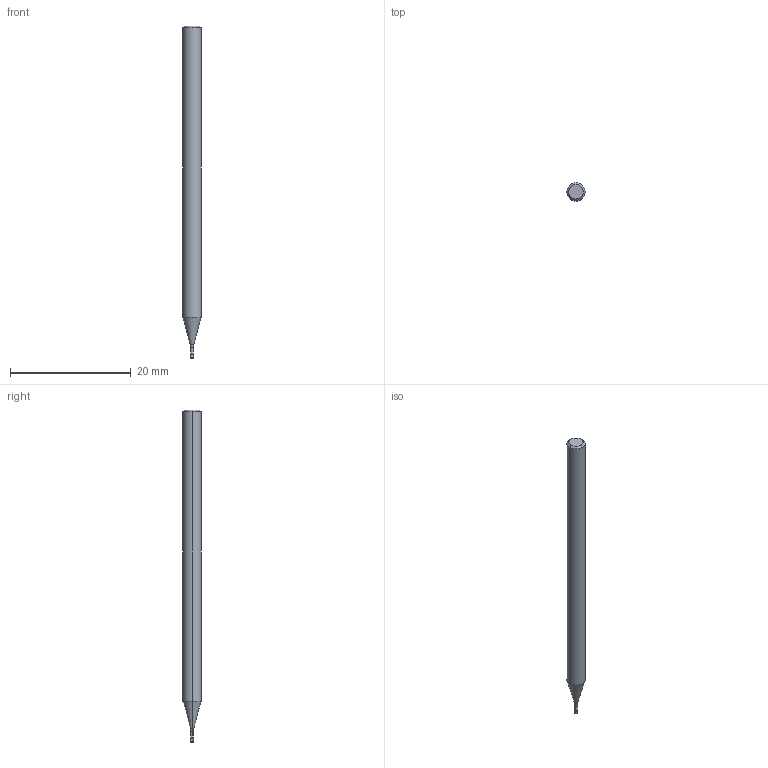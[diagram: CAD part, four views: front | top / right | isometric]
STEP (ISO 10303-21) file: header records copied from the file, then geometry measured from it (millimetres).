
FILE_DESCRIPTION (( 'STEP AP214' ), '1' );
FILE_NAME ('560.050.75_3D-model.step', '2022-02-18T15:43:11', ( '' ), ( '' ), 'SwSTEP 2.0', 'SolidWorks 2020', '' );
FILE_SCHEMA (( 'AUTOMOTIVE_DESIGN' ));
Length unit declared in the file: millimetre
Products named in the file (3): CUT-3D^Baugr19; 560.050.75_3D-model; NOCUT-3D^Baugr19
Assembly tree (2 placements, depth 2):
  560.050.75_3D-model
    CUT-3D^Baugr19
    NOCUT-3D^Baugr19
Bounding box: 3 x 3 x 55 mm (x, y, z)
Volume: 354.1 mm3; surface area: 490.1 mm2
Topology: 2 solids, 2 shells, 20 faces, 36 edges, 20 vertices
Faces by surface type: cylinder 6, cone 6, torus 4, plane 4
Entity records: 610 total; most frequent: DIRECTION 116, CARTESIAN_POINT 84, ORIENTED_EDGE 72, AXIS2_PLACEMENT_3D 52, EDGE_CURVE 36, CIRCLE 24, FACE_OUTER_BOUND 20, EDGE_LOOP 20
